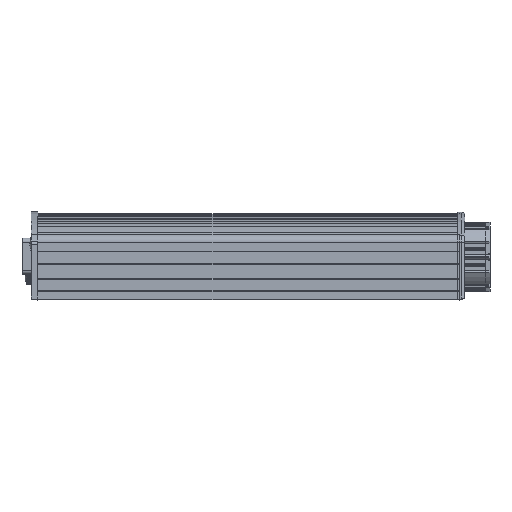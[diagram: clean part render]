
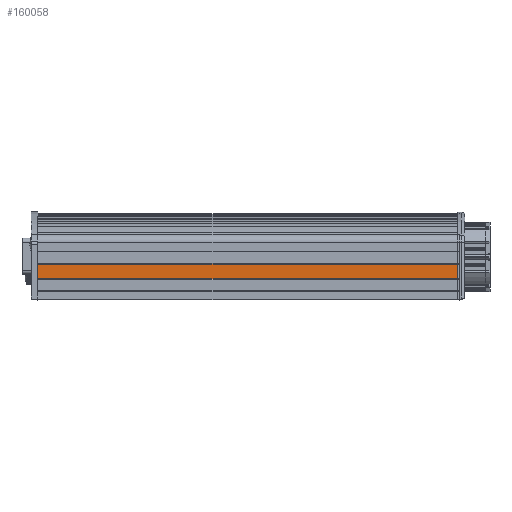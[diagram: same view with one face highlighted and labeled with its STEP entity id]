
A CAD part, left-side view. The second image highlights one B-rep face of the part: STEP entity #160058.
In plain terms, the highlighted planar face has unit normal (-1, 0, 0) as drawn and (1, 0, 0) by its records, which use the part's own axes.
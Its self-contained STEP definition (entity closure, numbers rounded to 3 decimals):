
#866 = EDGE_CURVE ( 'NONE', #173060, #176018, #25917, .T. ) ;
#2975 = VERTEX_POINT ( 'NONE', #57551 ) ;
#7544 = DIRECTION ( 'NONE',  ( -1., 0., 0. ) ) ;
#10187 = FACE_OUTER_BOUND ( 'NONE', #90405, .T. ) ;
#10860 = VECTOR ( 'NONE', #134463, 1000. ) ;
#17745 = CARTESIAN_POINT ( 'NONE',  ( 97.25, -9.14, 540. ) ) ;
#23268 = ORIENTED_EDGE ( 'NONE', *, *, #90374, .F. ) ;
#23614 = DIRECTION ( 'NONE',  ( 0., -1., 0. ) ) ;
#25917 = LINE ( 'NONE', #175722, #10860 ) ;
#34368 = ORIENTED_EDGE ( 'NONE', *, *, #163607, .F. ) ;
#38764 = ORIENTED_EDGE ( 'NONE', *, *, #90700, .T. ) ;
#43877 = CARTESIAN_POINT ( 'NONE',  ( 97.25, -27.86, 540. ) ) ;
#50594 = PLANE ( 'NONE',  #174614 ) ;
#52662 = LINE ( 'NONE', #80483, #85637 ) ;
#57551 = CARTESIAN_POINT ( 'NONE',  ( 97.25, -9.14, 0. ) ) ;
#60004 = CARTESIAN_POINT ( 'NONE',  ( 97.25, -9.14, 540. ) ) ;
#80483 = CARTESIAN_POINT ( 'NONE',  ( 97.25, -27.86, 0. ) ) ;
#85637 = VECTOR ( 'NONE', #109095, 1000. ) ;
#90374 = EDGE_CURVE ( 'NONE', #165447, #2975, #141492, .T. ) ;
#90405 = EDGE_LOOP ( 'NONE', ( #38764, #23268, #34368, #115307 ) ) ;
#90700 = EDGE_CURVE ( 'NONE', #176018, #2975, #52662, .T. ) ;
#109095 = DIRECTION ( 'NONE',  ( 0., 1., 0. ) ) ;
#110221 = DIRECTION ( 'NONE',  ( 0., 1., 0. ) ) ;
#115307 = ORIENTED_EDGE ( 'NONE', *, *, #866, .T. ) ;
#126299 = DIRECTION ( 'NONE',  ( 0., 0., -1. ) ) ;
#127072 = VECTOR ( 'NONE', #110221, 1000. ) ;
#128406 = VECTOR ( 'NONE', #126299, 1000. ) ;
#134463 = DIRECTION ( 'NONE',  ( 0., 0., -1. ) ) ;
#137145 = LINE ( 'NONE', #43877, #127072 ) ;
#141492 = LINE ( 'NONE', #17745, #128406 ) ;
#153262 = CARTESIAN_POINT ( 'NONE',  ( 97.25, -27.86, 0. ) ) ;
#160058 = ADVANCED_FACE ( 'NONE', ( #10187 ), #50594, .F. ) ;
#163607 = EDGE_CURVE ( 'NONE', #173060, #165447, #137145, .T. ) ;
#165447 = VERTEX_POINT ( 'NONE', #60004 ) ;
#170786 = CARTESIAN_POINT ( 'NONE',  ( 97.25, -27.86, 540. ) ) ;
#173060 = VERTEX_POINT ( 'NONE', #174420 ) ;
#174420 = CARTESIAN_POINT ( 'NONE',  ( 97.25, -27.86, 540. ) ) ;
#174614 = AXIS2_PLACEMENT_3D ( 'NONE', #170786, #7544, #23614 ) ;
#175722 = CARTESIAN_POINT ( 'NONE',  ( 97.25, -27.86, 540. ) ) ;
#176018 = VERTEX_POINT ( 'NONE', #153262 ) ;
